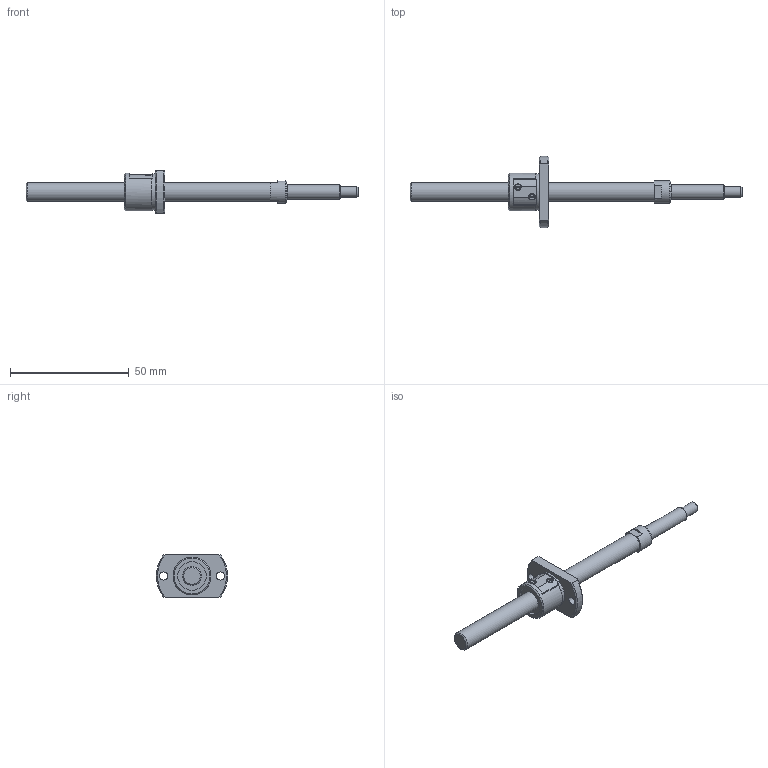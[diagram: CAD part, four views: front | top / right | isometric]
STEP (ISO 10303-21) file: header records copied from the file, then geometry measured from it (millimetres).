
FILE_DESCRIPTION(/* description */ ('STEP AP214'),/* implementation_level */ '2;1');
FILE_NAME(/* name */ 'SG0801-100R140C3A0X(41.5)',/* time_stamp */ '2026-07-21T16:36:17+02:00',/* author */ ('License CC BY-ND 4.0'),/* organization */ ('CADENAS'),/* preprocessor_version */ 'ST-DEVELOPER v20',/* originating_system */ 'PARTsolutions',/* authorisation */ ' ');
FILE_SCHEMA (('AUTOMOTIVE_DESIGN {1 0 10303 214 3 1 1}'));
Length unit declared in the file: millimetre
Products named in the file (3): SG0801-100R140C3A0X(41.5); SG0801-100R140C3A_shaft; SG0801_nut
Assembly tree (2 placements, depth 2):
  SG0801-100R140C3A0X(41.5)
    SG0801-100R140C3A_shaft
    SG0801_nut
Bounding box: 140 x 30 x 18 mm (x, y, z)
Volume: 9896.6 mm3; surface area: 5861 mm2
Topology: 2 solids, 2 shells, 74 faces, 182 edges, 119 vertices
Faces by surface type: plane 35, cylinder 25, cone 13, torus 1
Full cylindrical faces by diameter (mm): 3.4 x2, 4.5 x1, 6 x1, 8 x2, 9.5 x1, 12 x2, 15.6 x1, 16 x1
Entity records: 2123 total; most frequent: CARTESIAN_POINT 405, DIRECTION 354, ORIENTED_EDGE 304, EDGE_CURVE 152, AXIS2_PLACEMENT_3D 147, VERTEX_POINT 110, EDGE_LOOP 108, FACE_BOUND 108
